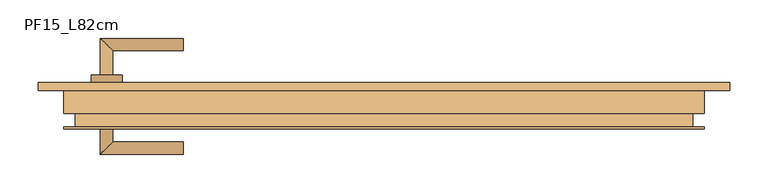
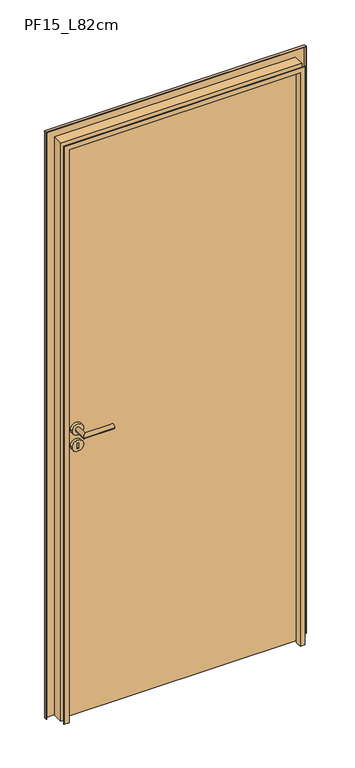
"""IFC4 building model written with IfcOpenShell, lengths in millimetres: door geometry, FDE_PF15_PF16_PF17_PortaemChapadeFerro : PF15_L82cm."""

import ifcopenshell
import ifcopenshell.guid

model = None  # the IFC model being written
_history = None  # IfcOwnerHistory: only IFC2X3 demands one
_inside = {}  # id of a spatial element -> (the spatial element, [elements in it])
_under = {}  # id of a project, library or spatial element -> (it, [spatial elements below it])
_declared = {}  # id of a project -> (the project, [libraries it declares])
_typed = {}  # id of a type object -> (the type object, [elements of that type])
_made_of = {}  # id of a material, layer set ... -> (it, [elements and type objects made of it])


def new_model(schema):
    """Start an empty IFC model of exactly this schema.

    Asked for "IFC4X3", IfcOpenShell would pick the latest addendum, in which some entities
    have other attributes; the version numbers below select the first issue.
    IFC2X3 requires an IfcOwnerHistory on every rooted entity: one is made here for all.
    """
    global model, _history
    if schema == "IFC4X3":
        model = ifcopenshell.file(schema_version=(4, 3, 0, 0))
    else:
        model = ifcopenshell.file(schema=schema)
    _inside.clear()
    _under.clear()
    _declared.clear()
    _typed.clear()
    _made_of.clear()
    _history = None
    if model.schema == "IFC2X3":
        org = make("IfcOrganization", Name="unknown")
        user = make(
            "IfcPersonAndOrganization",
            ThePerson=make("IfcPerson", FamilyName="unknown"),
            TheOrganization=org,
        )
        app = make(
            "IfcApplication",
            ApplicationDeveloper=org,
            Version="unknown",
            ApplicationFullName="unknown",
            ApplicationIdentifier="unknown",
        )
        _history = make(
            "IfcOwnerHistory",
            OwningUser=user,
            OwningApplication=app,
            ChangeAction="ADDED",
            CreationDate=0,
        )
    return model


def make(cls, **values):
    """One entity of the class cls with the attributes given. An attribute that is None is left unset."""
    return model.create_entity(
        cls, **{name: value for name, value in values.items() if value is not None}
    )


def rooted(cls, **values):
    """An entity with a GlobalId (a new one), such as an element, a storey or a relation."""
    return make(cls, GlobalId=ifcopenshell.guid.new(), OwnerHistory=_history, **values)


def si_unit(unit_type, name, prefix=None):
    """IfcSIUnit, for example si_unit("LENGTHUNIT", "METRE", prefix="MILLI")."""
    return make("IfcSIUnit", UnitType=unit_type, Prefix=prefix, Name=name)


def assignment(units):
    """IfcUnitAssignment: the units of a project."""
    return None if units is None else make("IfcUnitAssignment", Units=units)


def point(xyz):
    """IfcCartesianPoint."""
    return None if xyz is None else make("IfcCartesianPoint", Coordinates=xyz)


def direction(xyz):
    """IfcDirection."""
    return None if xyz is None else make("IfcDirection", DirectionRatios=xyz)


def frame(location, z_axis=None, x_axis=None):
    """IfcAxis2Placement3D, a coordinate frame: its origin and axes. An axis left out is left unset."""
    return make(
        "IfcAxis2Placement3D",
        Location=point(location),
        Axis=direction(z_axis),
        RefDirection=direction(x_axis),
    )


def frame_2d(location, x_axis=None):
    """IfcAxis2Placement2D, a coordinate frame in the plane: its origin and x axis."""
    return make(
        "IfcAxis2Placement2D", Location=point(location), RefDirection=direction(x_axis)
    )


def origin():
    """The frame at (0, 0, 0) with its axes left unset."""
    return frame((0.0, 0.0, 0.0))


def place(relative_to, where):
    """IfcLocalPlacement: puts the frame where relative to a parent placement (None: the world)."""
    return make(
        "IfcLocalPlacement", PlacementRelTo=relative_to, RelativePlacement=where
    )


def context(
    kind, dimensions, precision=None, world=None, true_north=None, identifier=None
):
    """IfcGeometricRepresentationContext, for example the 3D "Model" context."""
    return make(
        "IfcGeometricRepresentationContext",
        ContextIdentifier=identifier,
        ContextType=kind,
        CoordinateSpaceDimension=dimensions,
        Precision=precision,
        WorldCoordinateSystem=world,
        TrueNorth=true_north,
    )


def project(units=None, contexts=None):
    """IfcProject with its units and contexts."""
    return rooted(
        "IfcProject",
        Name="project",
        RepresentationContexts=contexts,
        UnitsInContext=assignment(units),
    )


def spatial(cls, under=None, at=None, **own):
    """A site, building, storey or space (cls), placed at a placement, below another one or the project."""
    s = rooted(cls, ObjectPlacement=at, **own)
    if under is not None:
        _under.setdefault(under.id(), (under, []))[1].append(s)
    return s


def polyline(points):
    """IfcPolyline through the points."""
    return make("IfcPolyline", Points=[point(p) for p in points])


def circle_curve(where, radius):
    """IfcCircle in the frame where."""
    return make("IfcCircle", Position=where, Radius=radius)


def ellipse_curve(where, semi_axis1, semi_axis2):
    """IfcEllipse in the frame where."""
    return make(
        "IfcEllipse", Position=where, SemiAxis1=semi_axis1, SemiAxis2=semi_axis2
    )


def trimmed(basis, trim1, trim2, sense, master):
    """IfcTrimmedCurve: the piece of a basis curve between two trims."""
    return make(
        "IfcTrimmedCurve",
        BasisCurve=basis,
        Trim1=trim1,
        Trim2=trim2,
        SenseAgreement=sense,
        MasterRepresentation=master,
    )


def segment(curve, same_sense, transition):
    """IfcCompositeCurveSegment."""
    return make(
        "IfcCompositeCurveSegment",
        Transition=transition,
        SameSense=same_sense,
        ParentCurve=curve,
    )


def composite_curve(segments, self_intersect=None):
    """IfcCompositeCurve: segments joined end to end."""
    return make("IfcCompositeCurve", Segments=segments, SelfIntersect=self_intersect)


def outline(outer, holes=None, kind="AREA"):
    """IfcArbitraryClosedProfileDef: a profile drawn as a closed curve; with holes, ...WithVoids."""
    if holes is None:
        return make("IfcArbitraryClosedProfileDef", ProfileType=kind, OuterCurve=outer)
    return make(
        "IfcArbitraryProfileDefWithVoids",
        ProfileType=kind,
        OuterCurve=outer,
        InnerCurves=holes,
    )


def extrude(swept, where, along, depth):
    """IfcExtrudedAreaSolid: the profile swept, set in the frame where, extruded along a direction by depth."""
    return make(
        "IfcExtrudedAreaSolid",
        SweptArea=swept,
        Position=where,
        ExtrudedDirection=direction(along),
        Depth=depth,
    )


def faces_of(points, faces, orient=None, outer=None):
    """IfcFace entities. A face is a list of loops; a loop is a list of indices into points, from 0.

    orient and outer hold one flag for each loop. By default every Orientation is true, the
    first loop of a face is its IfcFaceOuterBound and the others are IfcFaceBound.
    """
    made = []
    for i, loops in enumerate(faces):
        bounds = []
        for j, loop in enumerate(loops):
            is_outer = j == 0 if outer is None else outer[i][j]
            bounds.append(
                make(
                    "IfcFaceOuterBound" if is_outer else "IfcFaceBound",
                    Bound=make("IfcPolyLoop", Polygon=[points[k] for k in loop]),
                    Orientation=True if orient is None else orient[i][j],
                )
            )
        made.append(make("IfcFace", Bounds=bounds))
    return made


def faceted_brep(points, faces, orient=None, outer=None, voids=None):
    """IfcFacetedBrep: a solid bounded by flat faces; with voids (closed shells), ...WithVoids."""
    shared = [point(p) for p in points]
    hull = make("IfcClosedShell", CfsFaces=faces_of(shared, faces, orient, outer))
    if voids is None:
        return make("IfcFacetedBrep", Outer=hull)
    return make(
        "IfcFacetedBrepWithVoids",
        Outer=hull,
        Voids=[
            make(cls, CfsFaces=faces_of(shared, fs, o, b)) for cls, fs, o, b in voids
        ],
    )


def shape(context_of_items, identifier, shape_type, items):
    """IfcShapeRepresentation: the items that make up one representation, for example the "Body"."""
    return make(
        "IfcShapeRepresentation",
        ContextOfItems=context_of_items,
        RepresentationIdentifier=identifier,
        RepresentationType=shape_type,
        Items=items,
    )


def source(mapping_origin, context_of_items, identifier, shape_type, items):
    """IfcRepresentationMap: a shape defined once, which mapped items show again and again."""
    return make(
        "IfcRepresentationMap",
        MappingOrigin=mapping_origin,
        MappedRepresentation=shape(context_of_items, identifier, shape_type, items),
    )


def transform(
    local_origin,
    x_axis=None,
    y_axis=None,
    z_axis=None,
    scale=None,
    scale2=None,
    scale3=None,
    uniform=True,
):
    """IfcCartesianTransformationOperator3D, or its non-uniform kind. x_axis, y_axis, z_axis: its Axis1, 2, 3."""
    if uniform:
        return make(
            "IfcCartesianTransformationOperator3D",
            Axis1=direction(x_axis),
            Axis2=direction(y_axis),
            LocalOrigin=point(local_origin),
            Scale=scale,
            Axis3=direction(z_axis),
        )
    return make(
        "IfcCartesianTransformationOperator3DnonUniform",
        Axis1=direction(x_axis),
        Axis2=direction(y_axis),
        LocalOrigin=point(local_origin),
        Scale=scale,
        Axis3=direction(z_axis),
        Scale2=scale2,
        Scale3=scale3,
    )


def mapped(mapping_source, mapping_target):
    """IfcMappedItem: shows the shape of a source again, moved by a transform."""
    return make(
        "IfcMappedItem", MappingSource=mapping_source, MappingTarget=mapping_target
    )


def made_of(thing, what):
    """Note that an element or type object is made of a material, layer set ...; save() writes the relation."""
    if what is not None:
        _made_of.setdefault(what.id(), (what, []))[1].append(thing)
    return thing


def element(
    cls,
    number,
    at=None,
    inside=None,
    cuts=None,
    type_object=None,
    material=None,
    context=None,
    identifier="Body",
    shape_type=None,
    held_by="IfcProductDefinitionShape",
    body=None,
    shapes=None,
    **own,
):
    """One element of the class cls, such as IfcWall. Its Tag is "e" and its number.

    at: its placement. inside: the storey or other place that contains it. cuts: it is an
    opening in that element (IfcRelVoidsElement). A single representation is given by context,
    identifier, shape_type and body (its items); several are given by shapes. held_by: the class
    of the entity that holds the representations. save() writes the other relations.
    """
    e = rooted(cls, Tag="e%d" % number, ObjectPlacement=at, **own)
    if body is not None:
        shapes = [shape(context, identifier, shape_type, body)]
    if shapes is not None:
        e.Representation = make(held_by, Representations=shapes)
    if inside is not None:
        _inside.setdefault(inside.id(), (inside, []))[1].append(e)
    if cuts is not None:
        rooted(
            "IfcRelVoidsElement", RelatingBuildingElement=cuts, RelatedOpeningElement=e
        )
    if type_object is not None:
        _typed.setdefault(type_object.id(), (type_object, []))[1].append(e)
    return made_of(e, material)


def aggregate(whole, parts):
    """IfcRelAggregates: a whole, such as a stair, and the parts it consists of."""
    return rooted("IfcRelAggregates", RelatingObject=whole, RelatedObjects=parts)


def save(model, path):
    """Write the relations noted so far, then the file.

    IfcRelAggregates (storeys below a building ...), IfcRelContainedInSpatialStructure (elements
    in a storey), IfcRelDefinesByType, IfcRelAssociatesMaterial and IfcRelDeclares: one each for
    every whole, place, type object, material and project.
    """
    for whole, parts in _under.values():
        aggregate(whole, parts)
    for where, things in _inside.values():
        rooted(
            "IfcRelContainedInSpatialStructure",
            RelatedElements=things,
            RelatingStructure=where,
        )
    for kind, things in _typed.values():
        rooted("IfcRelDefinesByType", RelatedObjects=things, RelatingType=kind)
    for what, things in _made_of.values():
        rooted("IfcRelAssociatesMaterial", RelatedObjects=things, RelatingMaterial=what)
    for by, libraries in _declared.values():
        rooted("IfcRelDeclares", RelatingContext=by, RelatedDefinitions=libraries)
    model.write(path)


def plane_surface(at):
    """IfcPlane: the flat surface through the origin of the frame at, square to its z axis."""
    return make("IfcPlane", Position=at)


def cylinder_surface(at, radius):
    """IfcCylindricalSurface: all points at the distance radius from the z axis of the frame at."""
    return make("IfcCylindricalSurface", Position=at, Radius=radius)


def advanced_brep(points, edges, surfaces, faces):
    """IfcAdvancedBrep: a solid bounded by faces that lie on surfaces and meet in shared edges.

    An edge is (start, end): straight between two places in points (the first is 0);
    or (start, end, curve); or (start, end, curve, False) where it runs against its curve.
    A face is (place in surfaces, loops), or (place, loops, False) where it looks against
    its surface's normal. A loop lists edges by number (the first is 1), with a minus sign
    where the edge is run from its end to its start. The first loop is the outer one.
    """
    corners = [point(p) for p in points]
    vertices = [make("IfcVertexPoint", VertexGeometry=c) for c in corners]
    made = []
    for start, end, *more in edges:
        made.append(
            make(
                "IfcEdgeCurve",
                EdgeStart=vertices[start],
                EdgeEnd=vertices[end],
                EdgeGeometry=more[0] if more else make("IfcPolyline", Points=[corners[start], corners[end]]),
                SameSense=more[1] if len(more) > 1 else True,
            )
        )
    hull = []
    for where, loops, *sense in faces:
        bounds = []
        for j, loop in enumerate(loops):
            ring = [make("IfcOrientedEdge", EdgeElement=made[abs(k) - 1], Orientation=k > 0) for k in loop]
            bounds.append(
                make(
                    "IfcFaceOuterBound" if j == 0 else "IfcFaceBound",
                    Bound=make("IfcEdgeLoop", EdgeList=ring),
                    Orientation=True,
                )
            )
        hull.append(make("IfcAdvancedFace", Bounds=bounds, FaceSurface=surfaces[where], SameSense=sense[0] if sense else True))
    return make("IfcAdvancedBrep", Outer=make("IfcClosedShell", CfsFaces=hull))


def pf15_l82cm_5bfc7586(model_context):
    return source(origin(), model_context, "Body", "SolidModel", [
        extrude(outline(composite_curve([segment(trimmed(circle_curve(frame_2d((989.994466, -361.0)), 20.0), [point((989.994466, -381.0))], [point((989.994466, -341.0))], False, "CARTESIAN"), True, "CONTINUOUS"), segment(trimmed(circle_curve(frame_2d((989.994466, -361.0)), 20.0), [point((989.994466, -341.0))], [point((989.994466, -381.0))], False, "CARTESIAN"), True, "CONTINUOUS")], self_intersect=False), holes=[polyline([(1000.1515067, -358.7045566), (980.1515067, -358.7045566), (980.1515067, -363.7045566), (1000.1515067, -363.7045566), (1000.1515067, -358.7045566)])]), frame((0.0, 65.0, 0.0), z_axis=(0.0, 1.0, 0.0), x_axis=(0.0, 0.0, 1.0)), (0.0, 0.0, 1.0), 10.0),
        advanced_brep(
        [(-353.2045566, 75.0, 1050.0), (-369.2045566, 75.0, 1050.0), (-369.2045566, 123.0, 1050.0), (-353.2045566, 107.0, 1050.0), (-261.2045566, 107.0, 1050.0), (-261.2045566, 123.0, 1050.0)],
        [
            (0, 1, circle_curve(frame((-361.2045566, 75.0, 1050.0), z_axis=(0.0, -1.0, 0.0), x_axis=(-1.0, 0.0, 0.0)), 8.0)),
            (1, 0, circle_curve(frame((-361.2045566, 75.0, 1050.0), z_axis=(0.0, -1.0, 0.0), x_axis=(-1.0, 0.0, 0.0)), 8.0)),
            (1, 2),
            (2, 3, ellipse_curve(frame((-361.2045566, 115.0, 1050.0), z_axis=(-0.707106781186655, -0.7071067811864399, 0.0), x_axis=(0.7071067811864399, -0.7071067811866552, 0.0)), 11.3137085, 8.0)),
            (3, 0),
            (3, 2, ellipse_curve(frame((-361.2045566, 115.0, 1050.0), z_axis=(-0.707106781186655, -0.7071067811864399, 0.0), x_axis=(0.7071067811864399, -0.7071067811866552, 0.0)), 11.3137085, 8.0)),
            (4, 5, circle_curve(frame((-261.2045566, 115.0, 1050.0), z_axis=(1.0, 0.0, 0.0), x_axis=(0.0, 1.0, 0.0)), 8.0)),
            (5, 4, circle_curve(frame((-261.2045566, 115.0, 1050.0), z_axis=(1.0, 0.0, 0.0), x_axis=(0.0, 1.0, 0.0)), 8.0)),
            (2, 5),
            (4, 3),
        ],
        [
            plane_surface(frame((-361.2045566, 75.0, 1050.0), z_axis=(0.0, -1.0, 0.0), x_axis=(0.0, 0.0, 1.0))),
            cylinder_surface(frame((-361.2045566, 75.0, 1050.0), z_axis=(0.0, -1.0, 0.0), x_axis=(-1.0, 0.0, 0.0)), 8.0),
            plane_surface(frame((-261.2045566, 115.0, 1050.0), z_axis=(1.0, 0.0, 0.0), x_axis=(0.0, 0.0, 1.0))),
            cylinder_surface(frame((-361.2045566, 115.0, 1050.0), z_axis=(-1.0, 0.0, 0.0), x_axis=(0.0, 1.0, 0.0)), 8.0),
        ],
        [
            (0, [[1, 2]]),
            (1, [[-2, 3, 4, 5]]),
            (1, [[-1, -5, 6, -3]]),
            (2, [[7, 8]]),
            (3, [[-4, 9, -7, 10]]),
            (3, [[-6, -10, -8, -9]]),
        ],
    ),
        extrude(outline(composite_curve([segment(trimmed(circle_curve(frame_2d((1050.0, -361.0)), 20.0), [point((1050.0, -381.0))], [point((1050.0, -341.0))], False, "CARTESIAN"), True, "CONTINUOUS"), segment(trimmed(circle_curve(frame_2d((1050.0, -361.0)), 20.0), [point((1050.0, -341.0))], [point((1050.0, -381.0))], False, "CARTESIAN"), True, "CONTINUOUS")], self_intersect=False)), frame((0.0, 65.0, 0.0), z_axis=(0.0, 1.0, 0.0), x_axis=(0.0, 0.0, 1.0)), (0.0, 0.0, 1.0), 10.0),
        extrude(outline(composite_curve([segment(trimmed(circle_curve(frame_2d((989.994466, -361.0)), 20.0), [point((989.994466, -381.0))], [point((989.994466, -341.0))], False, "CARTESIAN"), True, "CONTINUOUS"), segment(trimmed(circle_curve(frame_2d((989.994466, -361.0)), 20.0), [point((989.994466, -341.0))], [point((989.994466, -381.0))], False, "CARTESIAN"), True, "CONTINUOUS")], self_intersect=False), holes=[polyline([(1000.1515067, -358.7045566), (980.1515067, -358.7045566), (980.1515067, -363.7045566), (1000.1515067, -363.7045566), (1000.1515067, -358.7045566)])]), frame((0.0, 20.0, 0.0), z_axis=(0.0, 1.0, 0.0), x_axis=(0.0, 0.0, 1.0)), (0.0, 0.0, 1.0), 10.0),
        advanced_brep(
        [(-369.2045566, 20.0, 1050.0), (-353.2045566, 20.0, 1050.0), (-369.2045566, -28.0, 1050.0), (-353.2045566, -12.0, 1050.0), (-261.2045566, -28.0, 1050.0), (-261.2045566, -12.0, 1050.0)],
        [
            (0, 1, circle_curve(frame((-361.2045566, 20.0, 1050.0), z_axis=(0.0, 1.0, 0.0), x_axis=(1.0, 0.0, 0.0)), 8.0)),
            (1, 0, circle_curve(frame((-361.2045566, 20.0, 1050.0), z_axis=(0.0, 1.0, 0.0), x_axis=(1.0, 0.0, 0.0)), 8.0)),
            (0, 2),
            (2, 3, ellipse_curve(frame((-361.2045566, -20.0, 1050.0), z_axis=(-0.7071067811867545, 0.7071067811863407, 0.0), x_axis=(0.7071067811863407, 0.7071067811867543, 0.0)), 11.3137085, 8.0)),
            (3, 1),
            (3, 2, ellipse_curve(frame((-361.2045566, -20.0, 1050.0), z_axis=(-0.7071067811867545, 0.7071067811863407, 0.0), x_axis=(0.7071067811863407, 0.7071067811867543, 0.0)), 11.3137085, 8.0)),
            (4, 5, circle_curve(frame((-261.2045566, -20.0, 1050.0), z_axis=(1.0, 0.0, 0.0), x_axis=(0.0, 1.0, 0.0)), 8.0)),
            (5, 4, circle_curve(frame((-261.2045566, -20.0, 1050.0), z_axis=(1.0, 0.0, 0.0), x_axis=(0.0, 1.0, 0.0)), 8.0)),
            (2, 4),
            (5, 3),
        ],
        [
            plane_surface(frame((-361.2045566, 20.0, 1050.0), z_axis=(0.0, 1.0, 0.0), x_axis=(0.0, 0.0, 1.0))),
            cylinder_surface(frame((-361.2045566, 20.0, 1050.0), z_axis=(0.0, 1.0, 0.0), x_axis=(1.0, 0.0, 0.0)), 8.0),
            plane_surface(frame((-261.2045566, -20.0, 1050.0), z_axis=(1.0, 0.0, 0.0), x_axis=(0.0, 0.0, 1.0))),
            cylinder_surface(frame((-361.2045566, -20.0, 1050.0), z_axis=(-1.0, 0.0, 0.0), x_axis=(0.0, 1.0, 0.0)), 8.0),
        ],
        [
            (0, [[1, 2]]),
            (1, [[-1, 3, 4, 5]]),
            (1, [[-2, -5, 6, -3]]),
            (2, [[7, 8]]),
            (3, [[-4, 9, -8, 10]]),
            (3, [[-6, -10, -7, -9]]),
        ],
    ),
        extrude(outline(composite_curve([segment(trimmed(circle_curve(frame_2d((1050.0, -361.0)), 20.0), [point((1050.0, -381.0))], [point((1050.0, -341.0))], False, "CARTESIAN"), True, "CONTINUOUS"), segment(trimmed(circle_curve(frame_2d((1050.0, -361.0)), 20.0), [point((1050.0, -341.0))], [point((1050.0, -381.0))], False, "CARTESIAN"), True, "CONTINUOUS")], self_intersect=False)), frame((0.0, 20.0, 0.0), z_axis=(0.0, 1.0, 0.0), x_axis=(0.0, 0.0, 1.0)), (0.0, 0.0, 1.0), 10.0),
        extrude(outline(polyline([(410.0, 65.0), (410.0, 30.0), (-410.0, 30.0), (-410.0, 65.0), (410.0, 65.0)])), frame((0.0, 0.0, 5.0), z_axis=(0.0, 0.0, 1.0), x_axis=(1.0, 0.0, 0.0)), (0.0, 0.0, 1.0), 2100.0),
        faceted_brep([(450.0, 65.0, 0.0), (450.0, 55.0, 0.0), (448.0, 55.0, 0.0), (448.0, 63.0, 0.0), (417.0, 63.0, 0.0), (417.0, 25.0, 0.0), (402.0, 25.0, 0.0), (402.0, 7.0, 0.0), (417.0, 7.0, 0.0), (417.0, 5.0, 0.0), (400.0, 5.0, 0.0), (400.0, 27.0, 0.0), (415.0, 27.0, 0.0), (415.0, 65.0, 0.0), (450.0, 65.0, 2145.0), (450.0, 55.0, 2145.0), (-450.0, 55.0, 2145.0), (-450.0, 55.0, 0.0), (-448.0, 55.0, 0.0), (-448.0, 55.0, 2143.0), (448.0, 55.0, 2143.0), (448.0, 63.0, 2143.0), (-448.0, 63.0, 2143.0), (-448.0, 63.0, 0.0), (-417.0, 63.0, 0.0), (-417.0, 63.0, 2112.0), (417.0, 63.0, 2112.0), (417.0, 25.0, 2112.0), (-417.0, 25.0, 2112.0), (-417.0, 25.0, 0.0), (-402.0, 25.0, 0.0), (-402.0, 25.0, 2097.0), (402.0, 25.0, 2097.0), (402.0, 7.0, 2097.0), (-402.0, 7.0, 2097.0), (-402.0, 7.0, 0.0), (-417.0, 7.0, 0.0), (-417.0, 7.0, 2112.0), (417.0, 7.0, 2112.0), (417.0, 5.0, 2112.0), (-417.0, 5.0, 2112.0), (-417.0, 5.0, 0.0), (-400.0, 5.0, 0.0), (-400.0, 5.0, 2095.0), (400.0, 5.0, 2095.0), (400.0, 27.0, 2095.0), (-400.0, 27.0, 2095.0), (-400.0, 27.0, 0.0), (-415.0, 27.0, 0.0), (-415.0, 27.0, 2110.0), (415.0, 27.0, 2110.0), (415.0, 65.0, 2110.0), (-415.0, 65.0, 2110.0), (-415.0, 65.0, 0.0), (-450.0, 65.0, 0.0), (-450.0, 65.0, 2145.0)], [[[0, 1, 2, 3, 4, 5, 6, 7, 8, 9, 10, 11, 12, 13]], [[1, 0, 14, 15]], [[2, 1, 15, 16, 17, 18, 19, 20]], [[3, 2, 20, 21]], [[4, 3, 21, 22, 23, 24, 25, 26]], [[5, 4, 26, 27]], [[6, 5, 27, 28, 29, 30, 31, 32]], [[7, 6, 32, 33]], [[8, 7, 33, 34, 35, 36, 37, 38]], [[9, 8, 38, 39]], [[10, 9, 39, 40, 41, 42, 43, 44]], [[11, 10, 44, 45]], [[12, 11, 45, 46, 47, 48, 49, 50]], [[13, 12, 50, 51]], [[0, 13, 51, 52, 53, 54, 55, 14]], [[16, 55, 54, 17]], [[54, 53, 48, 47, 42, 41, 36, 35, 30, 29, 24, 23, 18, 17]], [[22, 19, 18, 23]], [[28, 25, 24, 29]], [[34, 31, 30, 35]], [[40, 37, 36, 41]], [[46, 43, 42, 47]], [[52, 49, 48, 53]], [[15, 14, 55, 16]], [[21, 20, 19, 22]], [[27, 26, 25, 28]], [[33, 32, 31, 34]], [[39, 38, 37, 40]], [[45, 44, 43, 46]], [[51, 50, 49, 52]]]),
    ])


if __name__ == "__main__":
    model = new_model("IFC4")
    model_context = context("Model", 3, world=origin())
    ifc_project = project(units=[si_unit("LENGTHUNIT", "METRE", prefix="MILLI")], contexts=[model_context])
    site = spatial("IfcSite", under=ifc_project)
    building = spatial("IfcBuilding", under=site)
    placement = place(None, origin())
    pf15_l82cm_shape = pf15_l82cm_5bfc7586(model_context)
    element("IfcDoor", 1, ObjectType="FDE_PF15_PF16_PF17_PortaemChapadeFerro : PF15_L82cm", at=placement, inside=building, context=model_context, shape_type="MappedRepresentation", body=[
        mapped(pf15_l82cm_shape, transform((0.0, 0.0, 0.0), x_axis=(1.0, 0.0, 0.0), y_axis=(0.0, 1.0, 0.0), z_axis=(0.0, 0.0, 1.0))),
    ])
    save(model, "model.ifc")
